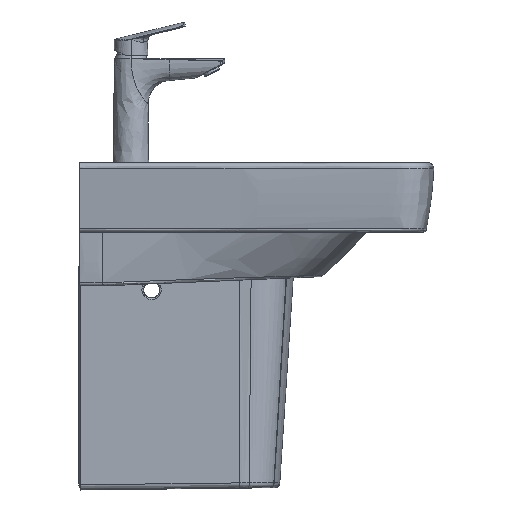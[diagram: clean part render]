
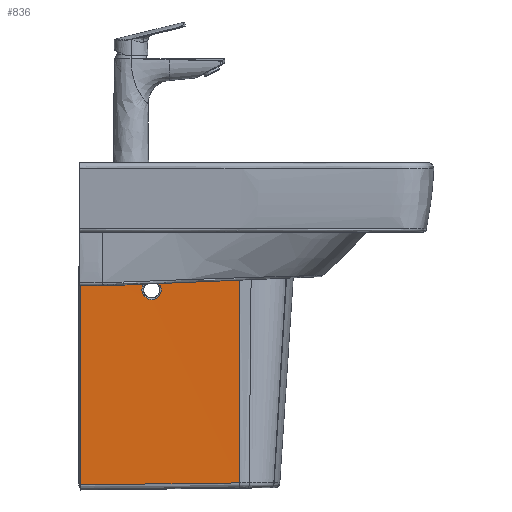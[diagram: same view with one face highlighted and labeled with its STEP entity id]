
A CAD part, left-side view. The second image highlights one B-rep face of the part: STEP entity #836.
In plain terms, the highlighted free-form (B-spline) face has degree [1, 5] with [2, 6] control points.
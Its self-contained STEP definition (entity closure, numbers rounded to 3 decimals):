
#259=B_SPLINE_SURFACE_WITH_KNOTS('',1,5,((#105089,#105090,#105091,#105092,
#105093,#105094),(#105095,#105096,#105097,#105098,#105099,#105100)),
 .UNSPECIFIED.,.F.,.F.,.F.,(2,2),(6,6),(6.856,288.047),
(0.,206.058),.UNSPECIFIED.);
#344=FACE_BOUND('',#1995,.T.);
#836=ADVANCED_FACE('',(#1403,#344),#259,.T.);
#1403=FACE_OUTER_BOUND('',#1994,.T.);
#1994=EDGE_LOOP('',(#4354,#4355,#4356,#4357));
#1995=EDGE_LOOP('',(#4358,#4359,#4360));
#4354=ORIENTED_EDGE('',*,*,#5958,.F.);
#4355=ORIENTED_EDGE('',*,*,#5952,.F.);
#4356=ORIENTED_EDGE('',*,*,#5935,.T.);
#4357=ORIENTED_EDGE('',*,*,#5898,.T.);
#4358=ORIENTED_EDGE('',*,*,#6061,.F.);
#4359=ORIENTED_EDGE('',*,*,#5939,.F.);
#4360=ORIENTED_EDGE('',*,*,#5938,.F.);
#5898=EDGE_CURVE('',#8185,#8183,#7033,.T.);
#5935=EDGE_CURVE('',#8219,#8185,#7070,.T.);
#5938=EDGE_CURVE('',#8222,#8221,#7073,.T.);
#5939=EDGE_CURVE('',#8221,#8285,#7074,.T.);
#5952=EDGE_CURVE('',#8219,#8220,#7087,.T.);
#5958=EDGE_CURVE('',#8220,#8183,#7093,.T.);
#6061=EDGE_CURVE('',#8285,#8222,#7190,.T.);
#7033=B_SPLINE_CURVE_WITH_KNOTS('',3,(#108188,#108189,#108190,#108191),
 .UNSPECIFIED.,.F.,.F.,(4,4),(0.,20.606),.UNSPECIFIED.);
#7070=B_SPLINE_CURVE_WITH_KNOTS('',1,(#108355,#108356),.UNSPECIFIED.,.F.,
 .F.,(2,2),(0.,278.789),.UNSPECIFIED.);
#7073=B_SPLINE_CURVE_WITH_KNOTS('',3,(#108376,#108377,#108378,#108379,#108380,
#108381,#108382,#108383,#108384,#108385),.UNSPECIFIED.,.F.,.F.,(4,1,1,1,
1,1,1,4),(-3.97,-3.412,-2.854,-2.295,
-1.737,-1.179,-0.621,-0.063),
 .UNSPECIFIED.);
#7074=B_SPLINE_CURVE_WITH_KNOTS('',3,(#108386,#108387,#108388,#108389),
 .UNSPECIFIED.,.F.,.F.,(4,4),(-0.063,0.123),
 .UNSPECIFIED.);
#7087=B_SPLINE_CURVE_WITH_KNOTS('',5,(#108473,#108474,#108475,#108476,#108477,
#108478),.UNSPECIFIED.,.F.,.F.,(6,6),(-103.036,103.036),
 .UNSPECIFIED.);
#7093=B_SPLINE_CURVE_WITH_KNOTS('',5,(#108504,#108505,#108506,#108507,#108508,
#108509,#108510,#108511,#108512),.UNSPECIFIED.,.F.,.F.,(6,3,6),(0.,138.089,
281.189),.UNSPECIFIED.);
#7190=B_SPLINE_CURVE_WITH_KNOTS('',3,(#109333,#109334,#109335,#109336,#109337,
#109338,#109339,#109340,#109341,#109342,#109343),.UNSPECIFIED.,.F.,.F.,
(4,1,1,1,1,1,1,1,4),(0.123,0.309,0.495,
1.239,1.611,2.17,2.728,3.286,
3.844),.UNSPECIFIED.);
#8183=VERTEX_POINT('',#108078);
#8185=VERTEX_POINT('',#108080);
#8219=VERTEX_POINT('',#108114);
#8220=VERTEX_POINT('',#108115);
#8221=VERTEX_POINT('',#108116);
#8222=VERTEX_POINT('',#108117);
#8285=VERTEX_POINT('',#108180);
#105089=CARTESIAN_POINT('',(-75.185,22.471,6.557));
#105090=CARTESIAN_POINT('',(-75.631,63.68,6.557));
#105091=CARTESIAN_POINT('',(-76.078,104.889,6.557));
#105092=CARTESIAN_POINT('',(-76.524,146.098,6.557));
#105093=CARTESIAN_POINT('',(-76.97,187.307,6.557));
#105094=CARTESIAN_POINT('',(-77.417,228.517,6.557));
#105095=CARTESIAN_POINT('',(-82.621,22.39,287.652));
#105096=CARTESIAN_POINT('',(-83.035,63.6,287.652));
#105097=CARTESIAN_POINT('',(-83.448,104.809,287.652));
#105098=CARTESIAN_POINT('',(-83.861,146.019,287.652));
#105099=CARTESIAN_POINT('',(-84.275,187.228,287.652));
#105100=CARTESIAN_POINT('',(-84.688,228.438,287.652));
#108078=CARTESIAN_POINT('',(-84.688,228.438,287.652));
#108080=CARTESIAN_POINT('',(-82.621,22.39,287.651));
#108114=CARTESIAN_POINT('',(-75.249,22.47,8.959));
#108115=CARTESIAN_POINT('',(-77.417,228.517,6.557));
#108116=CARTESIAN_POINT('',(-82.99,147.425,253.719));
#108117=CARTESIAN_POINT('',(-83.077,125.415,265.58));
#108180=CARTESIAN_POINT('',(-82.938,146.424,252.148));
#108188=CARTESIAN_POINT('',(-82.621,22.39,287.651));
#108189=CARTESIAN_POINT('',(-83.31,91.073,287.651));
#108190=CARTESIAN_POINT('',(-83.999,159.755,287.652));
#108191=CARTESIAN_POINT('',(-84.688,228.438,287.652));
#108355=CARTESIAN_POINT('',(-75.249,22.47,8.959));
#108356=CARTESIAN_POINT('',(-82.621,22.39,287.651));
#108376=CARTESIAN_POINT('',(-83.077,125.415,265.58));
#108377=CARTESIAN_POINT('',(-83.129,126.298,267.22));
#108378=CARTESIAN_POINT('',(-83.23,128.829,270.119));
#108379=CARTESIAN_POINT('',(-83.343,134.131,272.376));
#108380=CARTESIAN_POINT('',(-83.394,139.88,272.109));
#108381=CARTESIAN_POINT('',(-83.373,144.948,269.371));
#108382=CARTESIAN_POINT('',(-83.285,148.318,264.706));
#108383=CARTESIAN_POINT('',(-83.148,149.34,259.053));
#108384=CARTESIAN_POINT('',(-83.041,148.306,255.363));
#108385=CARTESIAN_POINT('',(-82.99,147.425,253.719));
#108386=CARTESIAN_POINT('',(-82.99,147.425,253.719));
#108387=CARTESIAN_POINT('',(-82.972,147.131,253.171));
#108388=CARTESIAN_POINT('',(-82.955,146.796,252.645));
#108389=CARTESIAN_POINT('',(-82.938,146.424,252.148));
#108473=CARTESIAN_POINT('',(-75.249,22.47,8.959));
#108474=CARTESIAN_POINT('',(-75.682,63.679,8.479));
#108475=CARTESIAN_POINT('',(-76.115,104.889,7.998));
#108476=CARTESIAN_POINT('',(-76.549,146.098,7.518));
#108477=CARTESIAN_POINT('',(-76.983,187.307,7.038));
#108478=CARTESIAN_POINT('',(-77.417,228.517,6.557));
#108504=CARTESIAN_POINT('',(-77.417,228.517,6.557));
#108505=CARTESIAN_POINT('',(-78.131,228.509,34.166));
#108506=CARTESIAN_POINT('',(-78.845,228.501,61.774));
#108507=CARTESIAN_POINT('',(-79.559,228.493,89.383));
#108508=CARTESIAN_POINT('',(-81.013,228.478,145.602));
#108509=CARTESIAN_POINT('',(-82.468,228.462,201.821));
#108510=CARTESIAN_POINT('',(-83.208,228.454,230.431));
#108511=CARTESIAN_POINT('',(-83.948,228.446,259.042));
#108512=CARTESIAN_POINT('',(-84.688,228.438,287.652));
#109333=CARTESIAN_POINT('',(-82.938,146.424,252.148));
#109334=CARTESIAN_POINT('',(-82.922,146.051,251.652));
#109335=CARTESIAN_POINT('',(-82.889,145.23,250.716));
#109336=CARTESIAN_POINT('',(-82.796,142.366,248.278));
#109337=CARTESIAN_POINT('',(-82.714,138.043,246.812));
#109338=CARTESIAN_POINT('',(-82.675,132.407,247.503));
#109339=CARTESIAN_POINT('',(-82.693,127.899,249.925));
#109340=CARTESIAN_POINT('',(-82.781,124.524,254.596));
#109341=CARTESIAN_POINT('',(-82.918,123.509,260.235));
#109342=CARTESIAN_POINT('',(-83.025,124.532,263.941));
#109343=CARTESIAN_POINT('',(-83.077,125.415,265.58));
